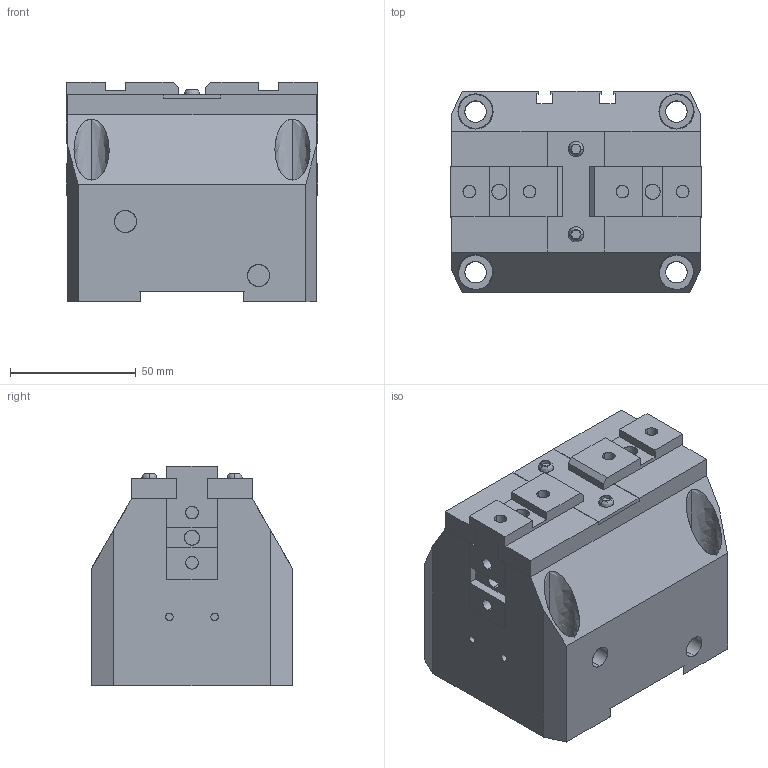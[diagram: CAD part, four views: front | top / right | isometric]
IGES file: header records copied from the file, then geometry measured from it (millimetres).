
Global section: file name: C:\Documents and Settings\Administrateur\Mes documents\OPE-100-S-CLOSED.igs; native system: AutoCAD-16.0s (LMS Tech) (Microsoft Windows NT Version 5.1 (x86)); preprocessor: Autodesk IGES Translator Mechanical Desktop.R7.0.43.0 (Mar 18 2003) from Autodesk, Inc.; date: 20050629.103708; units: millimetre
Bounding box: 100 x 80 x 87.5 mm (x, y, z)
Surface area: 85140.8 mm2 (no closed solid volume)
Topology: 0 solids, 0 shells, 227 faces, 2191 edges, 2276 vertices
Faces by surface type: bspline 227
